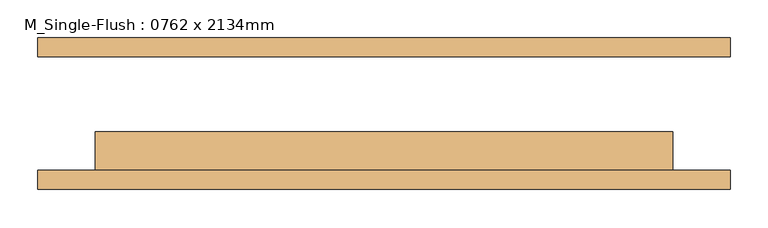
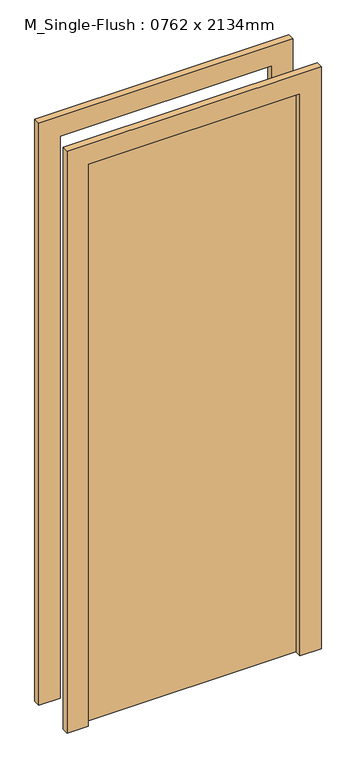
"""IFC4 building model written with IfcOpenShell, lengths in millimetres: door geometry, M_Single-Flush : 0762 x 2134mm."""

from ifc_helpers import new_model, si_unit, frame, origin, origin_with_axes, place, context, project, spatial, polyline, outline, extrude, source, transform, mapped, element, save


def m_single_flush_0762_x_2134mm_8c18b9de(model_context):
    return source(origin(), model_context, "Body", "SweptSolid", [
        extrude(outline(polyline([(2210.0, -457.0), (0.0, -457.0), (0.0, -381.0), (2134.0, -381.0), (2134.0, 381.0), (0.0, 381.0), (0.0, 457.0), (2210.0, 457.0), (2210.0, -457.0)])), frame((0.0, -100.0, 0.0), z_axis=(0.0, 1.0, 0.0), x_axis=(0.0, 0.0, 1.0)), (0.0, 0.0, 1.0), 25.0),
        extrude(outline(polyline([(2210.0, 457.0), (2210.0, -457.0), (0.0, -457.0), (0.0, -381.0), (2134.0, -381.0), (2134.0, 381.0), (0.0, 381.0), (0.0, 457.0), (2210.0, 457.0)])), frame((0.0, 75.0, 0.0), z_axis=(0.0, 1.0, 0.0), x_axis=(0.0, 0.0, 1.0)), (0.0, 0.0, 1.0), 25.0),
        extrude(outline(polyline([(381.0, -24.0), (381.0, -75.0), (-381.0, -75.0), (-381.0, -24.0), (381.0, -24.0)])), origin_with_axes(), (0.0, 0.0, 1.0), 2134.0),
    ])


if __name__ == "__main__":
    model = new_model("IFC4")
    model_context = context("Model", 3, world=origin())
    ifc_project = project(units=[si_unit("LENGTHUNIT", "METRE", prefix="MILLI")], contexts=[model_context])
    site = spatial("IfcSite", under=ifc_project)
    building = spatial("IfcBuilding", under=site)
    placement = place(None, origin())
    m_single_flush_0762_x_2134mm_shape = m_single_flush_0762_x_2134mm_8c18b9de(model_context)
    element("IfcDoor", 1, ObjectType="M_Single-Flush : 0762 x 2134mm", at=placement, inside=building, context=model_context, shape_type="MappedRepresentation", body=[
        mapped(m_single_flush_0762_x_2134mm_shape, transform((0.0, 0.0, 0.0), x_axis=(1.0, 0.0, 0.0), y_axis=(0.0, 1.0, 0.0), z_axis=(0.0, 0.0, 1.0))),
    ])
    save(model, "model.ifc")
